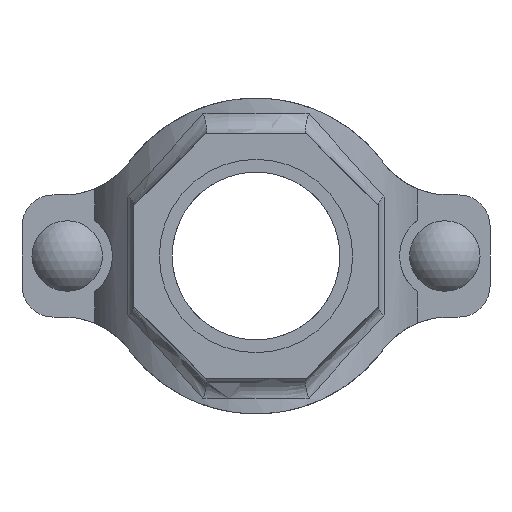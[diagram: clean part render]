
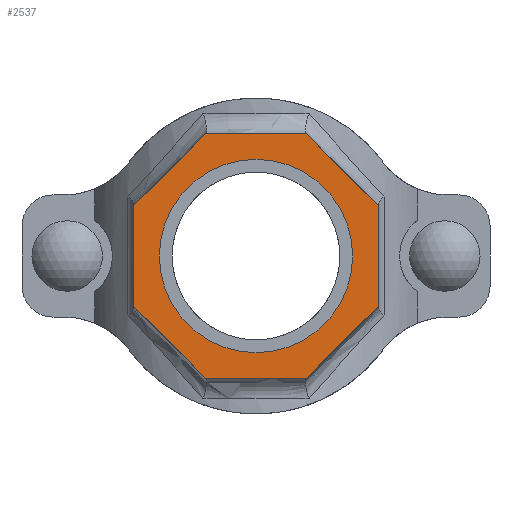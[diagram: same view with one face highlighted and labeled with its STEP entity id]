
A CAD part, front view. The second image highlights one B-rep face of the part: STEP entity #2537.
In plain terms, the highlighted planar face has unit normal (0, -1, 0) as drawn and (0, 1, 0) by its records, which use the part's own axes.
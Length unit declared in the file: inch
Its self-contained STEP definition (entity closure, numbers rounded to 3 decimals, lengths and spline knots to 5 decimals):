
#186=FACE_BOUND('',#457,.T.);
#305=FACE_OUTER_BOUND('',#456,.T.);
#456=EDGE_LOOP('',(#2126,#2127,#2128,#2129,#2130,#2131,#2132,#2133));
#457=EDGE_LOOP('',(#2134));
#594=LINE('',#4685,#780);
#597=LINE('',#4690,#783);
#599=LINE('',#4694,#785);
#601=LINE('',#4698,#787);
#637=LINE('',#5119,#823);
#639=LINE('',#5123,#825);
#641=LINE('',#5127,#827);
#643=LINE('',#5130,#829);
#780=VECTOR('',#3278,0.3937);
#783=VECTOR('',#3283,0.3937);
#785=VECTOR('',#3287,0.3937);
#787=VECTOR('',#3291,0.3937);
#823=VECTOR('',#3415,0.3937);
#825=VECTOR('',#3419,0.3937);
#827=VECTOR('',#3423,0.3937);
#829=VECTOR('',#3427,0.3937);
#915=CIRCLE('',#2798,1.1875);
#1097=VERTEX_POINT('',#4682);
#1098=VERTEX_POINT('',#4684);
#1099=VERTEX_POINT('',#4688);
#1100=VERTEX_POINT('',#4692);
#1101=VERTEX_POINT('',#4696);
#1132=VERTEX_POINT('',#4968);
#1156=VERTEX_POINT('',#5118);
#1157=VERTEX_POINT('',#5122);
#1158=VERTEX_POINT('',#5126);
#1408=EDGE_CURVE('',#1098,#1097,#594,.T.);
#1411=EDGE_CURVE('',#1097,#1099,#597,.T.);
#1413=EDGE_CURVE('',#1099,#1100,#599,.T.);
#1415=EDGE_CURVE('',#1100,#1101,#601,.T.);
#1457=EDGE_CURVE('',#1132,#1132,#915,.T.);
#1489=EDGE_CURVE('',#1156,#1098,#637,.T.);
#1491=EDGE_CURVE('',#1157,#1156,#639,.T.);
#1493=EDGE_CURVE('',#1158,#1157,#641,.T.);
#1495=EDGE_CURVE('',#1101,#1158,#643,.T.);
#2126=ORIENTED_EDGE('',*,*,#1495,.T.);
#2127=ORIENTED_EDGE('',*,*,#1493,.T.);
#2128=ORIENTED_EDGE('',*,*,#1491,.T.);
#2129=ORIENTED_EDGE('',*,*,#1489,.T.);
#2130=ORIENTED_EDGE('',*,*,#1408,.T.);
#2131=ORIENTED_EDGE('',*,*,#1411,.T.);
#2132=ORIENTED_EDGE('',*,*,#1413,.T.);
#2133=ORIENTED_EDGE('',*,*,#1415,.T.);
#2134=ORIENTED_EDGE('',*,*,#1457,.T.);
#2278=PLANE('',#2821);
#2537=ADVANCED_FACE('',(#305,#186),#2278,.T.);
#2798=AXIS2_PLACEMENT_3D('',#4969,#3361,#3362);
#2821=AXIS2_PLACEMENT_3D('',#5131,#3428,#3429);
#3278=DIRECTION('',(0.,0.,1.));
#3283=DIRECTION('',(0.707,0.,0.707));
#3287=DIRECTION('',(1.,0.,0.));
#3291=DIRECTION('',(0.707,0.,-0.707));
#3361=DIRECTION('center_axis',(0.,-1.,0.));
#3362=DIRECTION('ref_axis',(-1.,0.,0.));
#3415=DIRECTION('',(-0.707,0.,0.707));
#3419=DIRECTION('',(-1.,0.,0.));
#3423=DIRECTION('',(-0.707,0.,-0.707));
#3427=DIRECTION('',(0.,0.,-1.));
#3428=DIRECTION('center_axis',(0.,1.,0.));
#3429=DIRECTION('ref_axis',(0.,0.,1.));
#4682=CARTESIAN_POINT('',(-1.5,3.5,0.62132));
#4684=CARTESIAN_POINT('',(-1.5,3.5,-0.62132));
#4685=CARTESIAN_POINT('',(-1.5,3.5,0.62132));
#4688=CARTESIAN_POINT('',(-0.62132,3.5,1.5));
#4690=CARTESIAN_POINT('',(-0.62132,3.5,1.5));
#4692=CARTESIAN_POINT('',(0.62132,3.5,1.5));
#4694=CARTESIAN_POINT('',(0.62132,3.5,1.5));
#4696=CARTESIAN_POINT('',(1.5,3.5,0.62132));
#4698=CARTESIAN_POINT('',(1.5,3.5,0.62132));
#4968=CARTESIAN_POINT('',(1.1875,3.5,0.));
#4969=CARTESIAN_POINT('Origin',(0.,3.5,0.));
#5118=CARTESIAN_POINT('',(-0.62132,3.5,-1.5));
#5119=CARTESIAN_POINT('',(-1.5,3.5,-0.62132));
#5122=CARTESIAN_POINT('',(0.62132,3.5,-1.5));
#5123=CARTESIAN_POINT('',(-0.62132,3.5,-1.5));
#5126=CARTESIAN_POINT('',(1.5,3.5,-0.62132));
#5127=CARTESIAN_POINT('',(0.62132,3.5,-1.5));
#5130=CARTESIAN_POINT('',(1.5,3.5,-0.62132));
#5131=CARTESIAN_POINT('Origin',(0.,3.5,0.));
